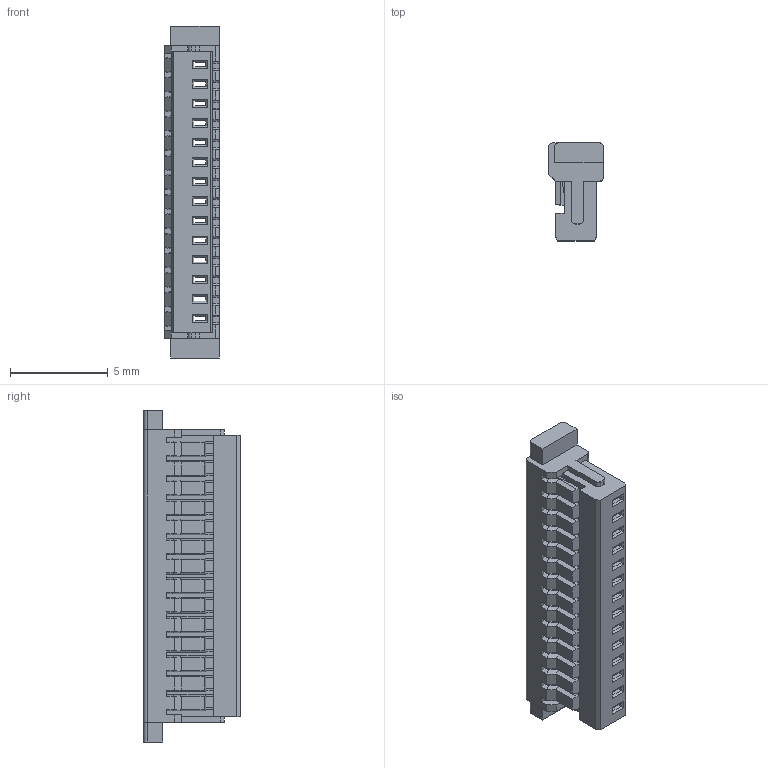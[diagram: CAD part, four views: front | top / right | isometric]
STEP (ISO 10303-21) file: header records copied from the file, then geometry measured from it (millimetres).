
FILE_DESCRIPTION((''),'2;1');
FILE_NAME('11','2017-06-01T',('k49820'),(''),'PRO/ENGINEER BY PARAMETRIC TECHNOLOGY CORPORATION, 2009360','PRO/ENGINEER BY PARAMETRIC TECHNOLOGY CORPORATION, 2009360','');
FILE_SCHEMA(('CONFIG_CONTROL_DESIGN'));
Length unit declared in the file: millimetre
Products named in the file (1): 11
Bounding box: 2.8 x 5 x 17 mm (x, y, z)
Volume: 99.3 mm3; surface area: 588.2 mm2
Topology: 1 solids, 1 shells, 701 faces, 1991 edges, 1278 vertices
Faces by surface type: plane 650, cylinder 51
Entity records: 22333 total; most frequent: ORIENTED_EDGE 3982, CARTESIAN_POINT 3970, DIRECTION 3495, EDGE_CURVE 1991, VECTOR 1889, LINE 1889, VERTEX_POINT 1278, AXIS2_PLACEMENT_3D 803
